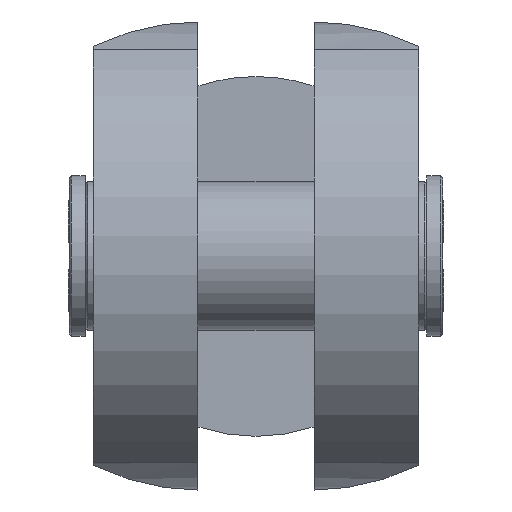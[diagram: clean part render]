
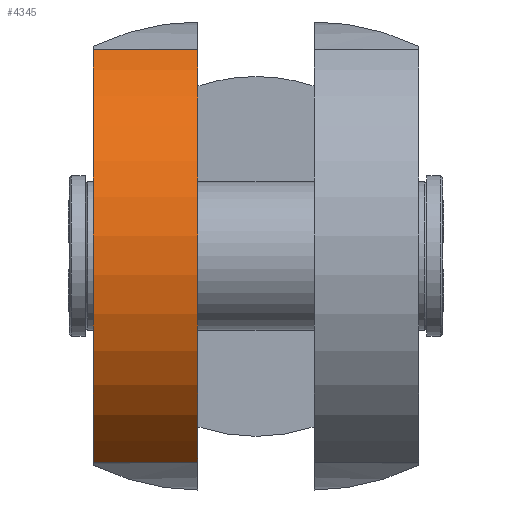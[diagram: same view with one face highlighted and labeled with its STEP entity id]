
A CAD part, top view. The second image highlights one B-rep face of the part: STEP entity #4345.
In plain terms, the highlighted cylindrical face has radius 201.5 mm (diameter 403 mm), a partial arc.
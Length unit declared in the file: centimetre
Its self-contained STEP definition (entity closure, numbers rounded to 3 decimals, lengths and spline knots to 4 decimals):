
#461=LINE('',#7202,#845);
#462=LINE('',#7206,#846);
#845=VECTOR('',#5644,9.1);
#846=VECTOR('',#5649,9.1);
#914=CYLINDRICAL_SURFACE('',#4660,20.15);
#1404=FACE_OUTER_BOUND('',#1730,.T.);
#1730=EDGE_LOOP('',(#3792,#3793,#3794,#3795));
#1804=CIRCLE('',#4641,20.15);
#1816=CIRCLE('',#4661,20.15);
#2191=VERTEX_POINT('',#7172);
#2192=VERTEX_POINT('',#7173);
#2200=VERTEX_POINT('',#7200);
#2201=VERTEX_POINT('',#7204);
#2722=EDGE_CURVE('',#2191,#2192,#1804,.T.);
#2735=EDGE_CURVE('',#2200,#2192,#461,.T.);
#2736=EDGE_CURVE('',#2201,#2200,#1816,.T.);
#2737=EDGE_CURVE('',#2201,#2191,#462,.T.);
#3792=ORIENTED_EDGE('',*,*,#2722,.T.);
#3793=ORIENTED_EDGE('',*,*,#2735,.F.);
#3794=ORIENTED_EDGE('',*,*,#2736,.F.);
#3795=ORIENTED_EDGE('',*,*,#2737,.T.);
#4345=ADVANCED_FACE('',(#1404),#914,.T.);
#4641=AXIS2_PLACEMENT_3D('',#7174,#5605,#5606);
#4660=AXIS2_PLACEMENT_3D('',#7203,#5645,#5646);
#4661=AXIS2_PLACEMENT_3D('',#7205,#5647,#5648);
#5605=DIRECTION('center_axis',(1.,0.,0.));
#5606=DIRECTION('ref_axis',(0.,-0.891,0.455));
#5644=DIRECTION('',(-1.,0.,0.));
#5645=DIRECTION('center_axis',(-1.,0.,0.));
#5646=DIRECTION('ref_axis',(0.,-0.891,0.455));
#5647=DIRECTION('center_axis',(1.,0.,0.));
#5648=DIRECTION('ref_axis',(0.,-0.891,0.455));
#5649=DIRECTION('',(-1.,0.,0.));
#7172=CARTESIAN_POINT('',(-14.15,17.9469,10.0114));
#7173=CARTESIAN_POINT('',(-14.15,-17.9469,10.0114));
#7174=CARTESIAN_POINT('Origin',(-14.15,0.,
0.85));
#7200=CARTESIAN_POINT('',(-5.05,-17.9469,10.0114));
#7202=CARTESIAN_POINT('',(0.,-17.9469,10.0114));
#7203=CARTESIAN_POINT('Origin',(0.,0.,
0.85));
#7204=CARTESIAN_POINT('',(-5.05,17.9469,10.0114));
#7205=CARTESIAN_POINT('Origin',(-5.05,0.,
0.85));
#7206=CARTESIAN_POINT('',(0.,17.9469,10.0114));
